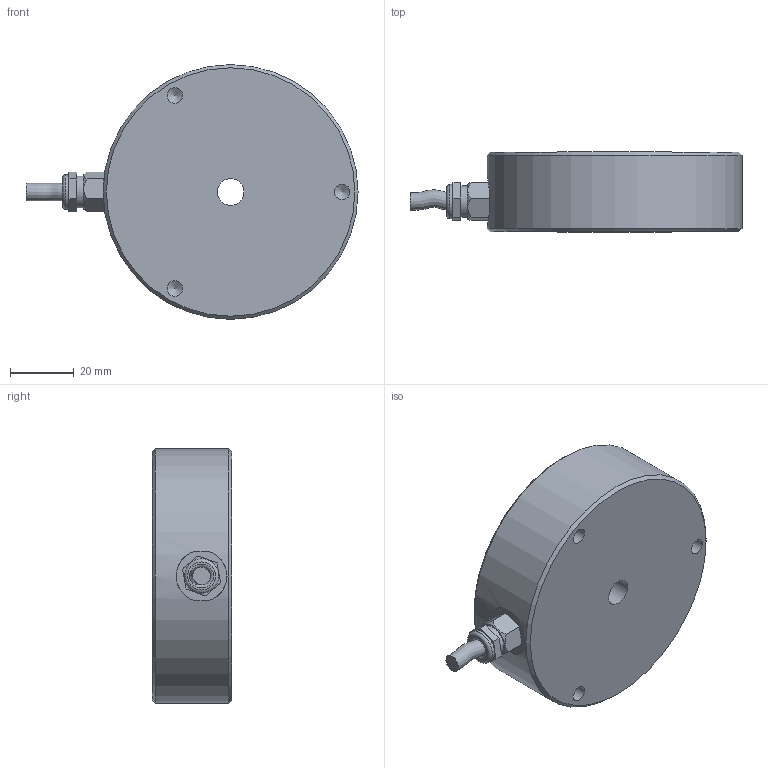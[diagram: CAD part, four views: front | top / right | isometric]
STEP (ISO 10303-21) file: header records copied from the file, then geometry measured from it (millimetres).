
FILE_DESCRIPTION(/* description */ ('Alibre Inc.'),/* implementation_level */ '2;1');
FILE_NAME(/* name */ 'export0',/* time_stamp */ '2010-10-11T14:33:39+02:00',/* author */ (''),/* organization */ (''),/* preprocessor_version */ 'ST-DEVELOPER v10',/* originating_system */ 'Alibre',/* authorisation */ '');
FILE_SCHEMA (('AUTOMOTIVE_DESIGN'));
Length unit declared in the file: centimetre
Bounding box: 104.25 x 25 x 80 mm (x, y, z)
Volume: 119509.8 mm3; surface area: 19386.6 mm2
Topology: 3 solids, 3 shells, 53 faces, 112 edges, 72 vertices
Faces by surface type: plane 25, cylinder 15, cone 10, torus 2, bspline 1
Full cylindrical faces by diameter (mm): 4.917 x3, 5.5 x1, 8 x2, 8.376 x1, 10 x1, 10.106 x1, 10.8 x1, 19 x1, 24 x1, 80 x1
Entity records: 1596 total; most frequent: CARTESIAN_POINT 534, DIRECTION 185, ORIENTED_EDGE 160, FACE_BOUND 93, EDGE_LOOP 89, AXIS2_PLACEMENT_3D 87, EDGE_CURVE 80, VERTEX_POINT 69
